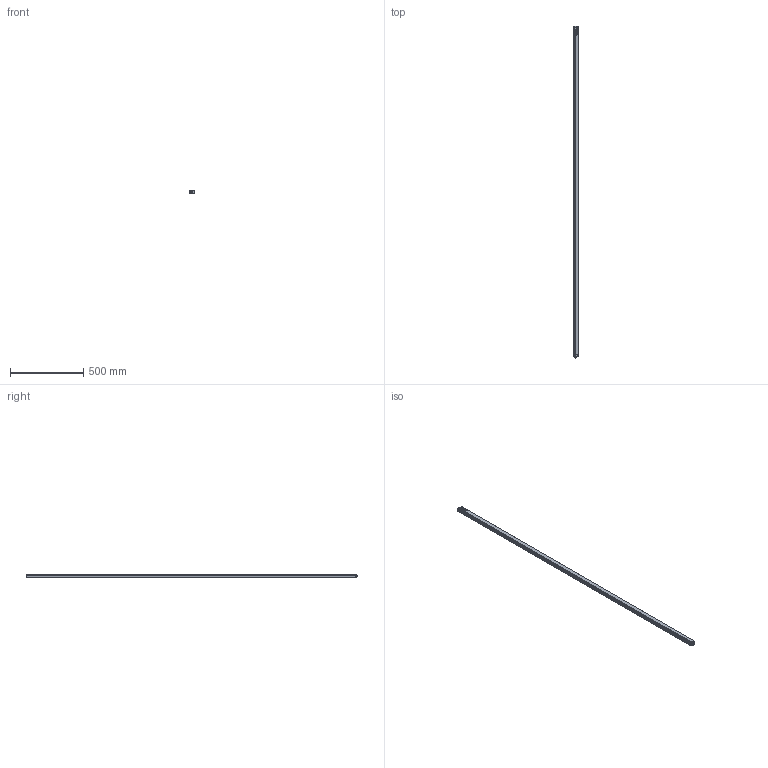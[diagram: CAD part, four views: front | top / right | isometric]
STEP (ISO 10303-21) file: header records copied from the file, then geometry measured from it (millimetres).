
FILE_DESCRIPTION(/* description */ (''),/* implementation_level */ '2;1');
FILE_NAME(/* name */ 'C:\Users\andre\SynologyDrive\Optoscan\Libreria Componenti\00 - Barriere\Barriera sorgente\Argo_2240_TX.stp',/* time_stamp */ '2021-04-22T10:31:30+02:00',/* author */ ('andre'),/* organization */ (''),/* preprocessor_version */ 'ST-DEVELOPER v18',/* originating_system */ 'Autodesk Inventor 2020',/* authorisation */ '');
FILE_SCHEMA (('AUTOMOTIVE_DESIGN { 1 0 10303 214 3 1 1 }'));
Length unit declared in the file: millimetre
Products named in the file (1): Argo_2240_TX
Bounding box: 40.5 x 2273.3 x 20.75 mm (x, y, z)
Volume: 447412.1 mm3; surface area: 589956.3 mm2
Topology: 1 solids, 1 shells, 696 faces, 1911 edges, 1225 vertices
Faces by surface type: plane 321, cylinder 195, bspline 94, torus 72, cone 8, sphere 6
Full cylindrical faces by diameter (mm): 1 x4, 2.459 x4, 2.5 x4, 3 x4, 3.5 x4, 5.5 x4, 8 x1, 10.5 x2, 11.75 x9, 15.7 x1, 17.5 x1
Entity records: 30770 total; most frequent: CARTESIAN_POINT 12670, ORIENTED_EDGE 3806, DIRECTION 3415, EDGE_CURVE 1903, VERTEX_POINT 1225, AXIS2_PLACEMENT_3D 1193, LINE 1029, VECTOR 1029
